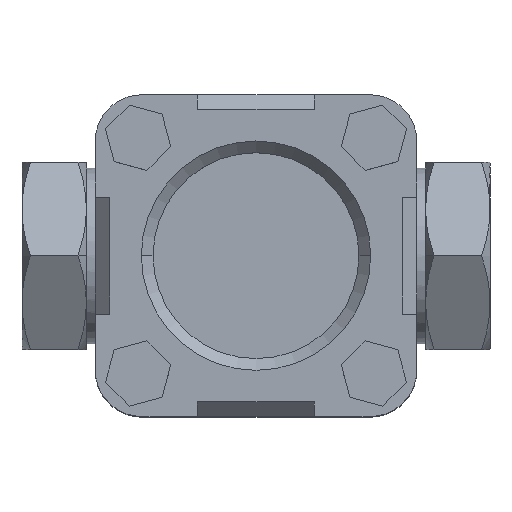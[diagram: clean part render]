
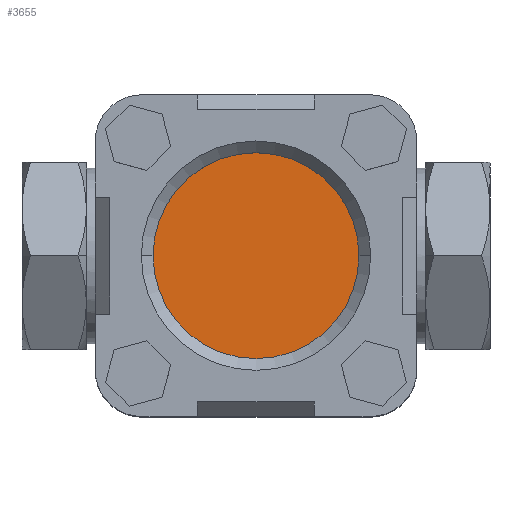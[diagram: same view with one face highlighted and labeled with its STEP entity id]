
A CAD part, top view. The second image highlights one B-rep face of the part: STEP entity #3655.
In plain terms, the highlighted planar face has unit normal (0, 0, 1).
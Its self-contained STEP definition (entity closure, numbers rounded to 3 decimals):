
#615 = AXIS2_PLACEMENT_3D ( 'NONE', #5062, #5030, #2987 ) ;
#704 = DIRECTION ( 'NONE',  ( 0., 0., 1. ) ) ;
#1108 = DIRECTION ( 'NONE',  ( 1., 0., 0. ) ) ;
#1146 = CIRCLE ( 'NONE', #615, 17.6 ) ;
#2181 = CARTESIAN_POINT ( 'NONE',  ( 0., 0., 27.8 ) ) ;
#2405 = EDGE_CURVE ( 'NONE', #5494, #4627, #1146, .T. ) ;
#2483 = FACE_OUTER_BOUND ( 'NONE', #3687, .T. ) ;
#2517 = CARTESIAN_POINT ( 'NONE',  ( 0., 17.6, 27.8 ) ) ;
#2563 = EDGE_CURVE ( 'NONE', #4627, #5494, #3074, .T. ) ;
#2987 = DIRECTION ( 'NONE',  ( 1., 0., 0. ) ) ;
#3074 = CIRCLE ( 'NONE', #5855, 17.6 ) ;
#3655 = ADVANCED_FACE ( 'NONE', ( #2483 ), #4621, .T. ) ;
#3687 = EDGE_LOOP ( 'NONE', ( #4965, #5834 ) ) ;
#4107 = CARTESIAN_POINT ( 'NONE',  ( 17.6, 0., 27.8 ) ) ;
#4133 = AXIS2_PLACEMENT_3D ( 'NONE', #2517, #6174, #6106 ) ;
#4621 = PLANE ( 'NONE',  #4133 ) ;
#4626 = CARTESIAN_POINT ( 'NONE',  ( -17.6, 0., 27.8 ) ) ;
#4627 = VERTEX_POINT ( 'NONE', #4626 ) ;
#4965 = ORIENTED_EDGE ( 'NONE', *, *, #2405, .T. ) ;
#5030 = DIRECTION ( 'NONE',  ( 0., 0., 1. ) ) ;
#5062 = CARTESIAN_POINT ( 'NONE',  ( 0., 0., 27.8 ) ) ;
#5494 = VERTEX_POINT ( 'NONE', #4107 ) ;
#5834 = ORIENTED_EDGE ( 'NONE', *, *, #2563, .T. ) ;
#5855 = AXIS2_PLACEMENT_3D ( 'NONE', #2181, #704, #1108 ) ;
#6106 = DIRECTION ( 'NONE',  ( 1., 0., 0. ) ) ;
#6174 = DIRECTION ( 'NONE',  ( 0., 0., 1. ) ) ;
